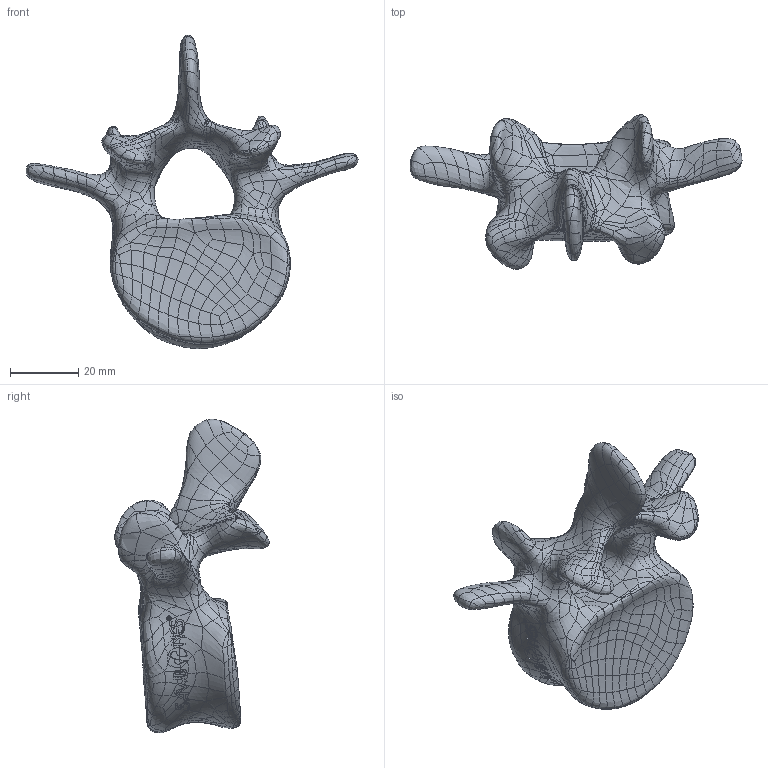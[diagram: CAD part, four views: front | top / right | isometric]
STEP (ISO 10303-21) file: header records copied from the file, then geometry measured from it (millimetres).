
FILE_DESCRIPTION (( 'STEP AP203' ), '1' );
FILE_NAME ('1375-50-4.STEP', '2026-08-04T17:21:04', ( '' ), ( '' ), 'SwSTEP 2.0', 'SolidWorks 2024', '' );
FILE_SCHEMA (( 'CONFIG_CONTROL_DESIGN' ));
Products named in the file (1): 1375-50-4
Bounding box: 97.32 x 45.34 x 91.89 mm (x, y, z)
Volume: 59923.4 mm3; surface area: 14117.2 mm2
Topology: 1 solids, 1 shells, 1681 faces, 3550 edges, 1871 vertices
Faces by surface type: bspline 1681
Entity records: 357140 total; most frequent: CARTESIAN_POINT 334257, ORIENTED_EDGE 7100, EDGE_CURVE 3550, B_SPLINE_CURVE_WITH_KNOTS 3550, VERTEX_POINT 1871, EDGE_LOOP 1683, ADVANCED_FACE 1681, FACE_OUTER_BOUND 1681
